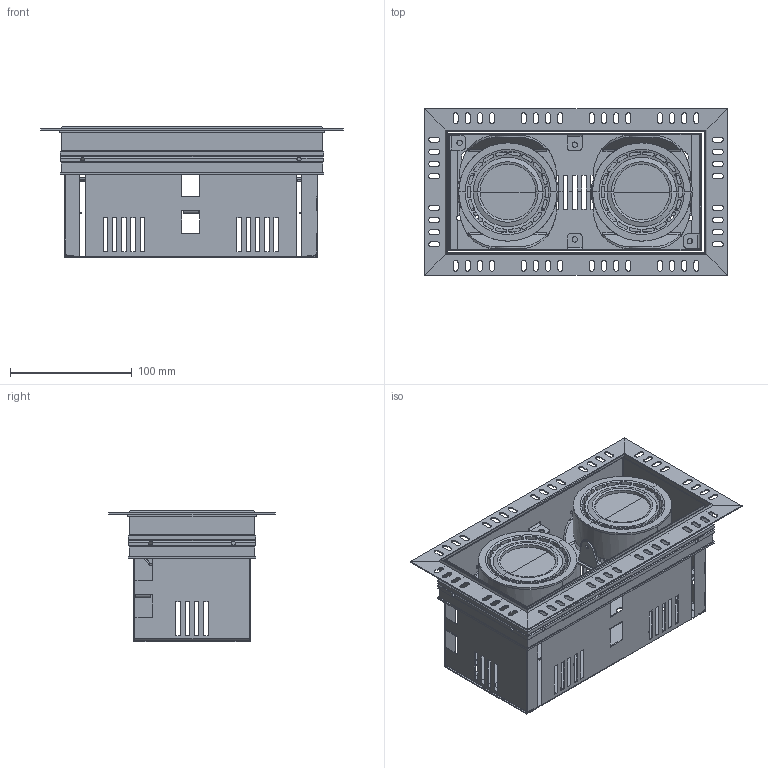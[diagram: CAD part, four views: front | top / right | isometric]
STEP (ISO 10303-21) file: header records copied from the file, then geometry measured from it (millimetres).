
FILE_DESCRIPTION(/* description */ (''),/* implementation_level */ '2;1');
FILE_NAME(/* name */ 'C:\Users\FrancoSartori\Documents\FARO\01_En Proceso\000_PRO\00_1 NANO COLIN\03_Publicación\035105002.stp',/* time_stamp */ '2021-08-31T10:39:14+02:00',/* author */ ('FrancoSartori'),/* organization */ (''),/* preprocessor_version */ 'ST-DEVELOPER v18.1',/* originating_system */ 'AutoCAD Mechanical',/* authorisation */ '');
FILE_SCHEMA (('AUTOMOTIVE_DESIGN { 1 0 10303 214 3 1 1 }'));
Products named in the file (2): Product; NANO COLIN-2_wf - Lamp-493579-Export
Assembly tree (1 placements, depth 2):
  Product
    NANO COLIN-2_wf - Lamp-493579-Export
Bounding box: 249 x 137 x 107.8 mm (x, y, z)
Volume: 306257.4 mm3; surface area: 414629.9 mm2
Topology: 77 solids, 77 shells, 1776 faces, 4870 edges, 3152 vertices
Faces by surface type: plane 898, cylinder 610, torus 144, cone 80, bspline 44
Entity records: 63385 total; most frequent: CARTESIAN_POINT 17608, ORIENTED_EDGE 9740, DIRECTION 9256, EDGE_CURVE 4870, AXIS2_PLACEMENT_3D 3263, VERTEX_POINT 3152, LINE 2730, VECTOR 2730
